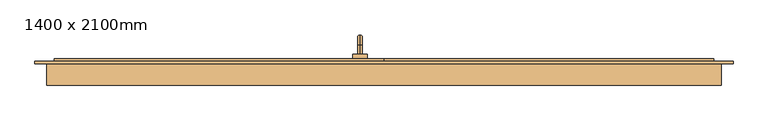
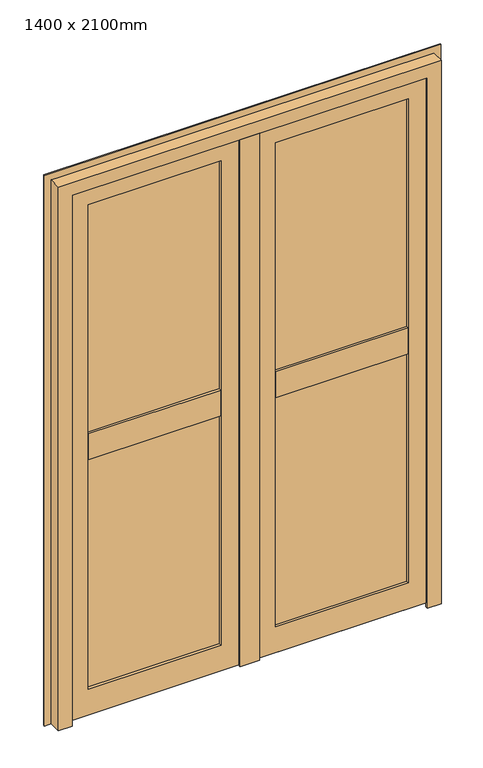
"""IFC4 building model written with IfcOpenShell, lengths in millimetres: door geometry, Puerta practicable de entrada, 2 hojas : 1400 x 2100mm."""

from ifc_helpers import new_model, si_unit, point, frame, origin, place, context, project, spatial, polyline, circle_curve, ellipse_curve, trimmed, outline, extrude, faceted_brep, source, transform, mapped, element, save
from ifc_brep_helpers import plane_surface, cylinder_surface, revolved_surface, advanced_brep


def door_1400_x_2100mm_e34f5f79(model_context):
    return source(origin(), model_context, "Body", "SolidModel", [
        advanced_brep(
        [(-50.0, 225.0, 905.0), (-50.0, 244.0, 905.0), (-50.0, 244.0, 895.0), (-50.0, 225.0, 895.0), (-50.0, 265.0, 884.0), (-50.0, 255.0, 884.0), (-50.0, 265.0, 805.0), (-50.0, 255.0, 805.0), (-65.0, 225.0, 930.0), (-35.0, 225.0, 930.0), (-35.0, 225.0, 870.0), (-65.0, 225.0, 870.0), (-65.0, 215.0, 930.0), (-65.0, 215.0, 870.0), (-35.0, 215.0, 870.0), (-35.0, 215.0, 930.0)],
        [
            (0, 1),
            (1, 2, circle_curve(frame((-50.0, 244.0, 900.0), z_axis=(0.0, -1.0, 0.0), x_axis=(0.0, 0.0, -1.0)), 5.0)),
            (2, 3),
            (3, 0, circle_curve(frame((-50.0, 225.0, 900.0), z_axis=(0.0, 1.0, 0.0), x_axis=(0.0, 0.0, -1.0)), 5.0)),
            (0, 3, circle_curve(frame((-50.0, 225.0, 900.0), z_axis=(0.0, 1.0, 0.0), x_axis=(0.0, 0.0, -1.0)), 5.0)),
            (2, 1, circle_curve(frame((-50.0, 244.0, 900.0), z_axis=(0.0, -1.0, 0.0), x_axis=(0.0, 0.0, -1.0)), 5.0)),
            (1, 4, circle_curve(frame((-50.0, 244.0, 884.0), z_axis=(-1.0, 0.0, 0.0), x_axis=(0.0, 0.0, 1.0)), 21.0)),
            (4, 5, circle_curve(frame((-50.0, 260.0, 884.0), z_axis=(0.0, 0.0, 1.0), x_axis=(0.0, -1.0, 0.0)), 5.0)),
            (5, 2, circle_curve(frame((-50.0, 244.0, 884.0), z_axis=(1.0, 0.0, 0.0), x_axis=(0.0, 0.0, 1.0)), 11.0)),
            (5, 4, circle_curve(frame((-50.0, 260.0, 884.0), z_axis=(0.0, 0.0, 1.0), x_axis=(0.0, -1.0, 0.0)), 5.0)),
            (6, 7, circle_curve(frame((-50.0, 260.0, 805.0), z_axis=(0.0, 0.0, -1.0), x_axis=(0.0, -1.0, 0.0)), 5.0)),
            (7, 6, circle_curve(frame((-50.0, 260.0, 805.0), z_axis=(0.0, 0.0, -1.0), x_axis=(0.0, -1.0, 0.0)), 5.0)),
            (4, 6),
            (7, 5),
            (8, 9),
            (9, 10),
            (10, 11),
            (11, 8),
            (12, 13),
            (13, 14),
            (14, 15),
            (15, 12),
            (8, 12),
            (15, 9),
            (14, 10),
            (13, 11),
        ],
        [
            cylinder_surface(frame((-50.0, 225.0, 900.0), z_axis=(0.0, -1.0, 0.0), x_axis=(0.0, 0.0, -1.0)), 5.0),
            revolved_surface(trimmed(ellipse_curve(frame((-50.0, 244.0, 900.0), z_axis=(0.0, -1.0, 0.0), x_axis=(0.0, 0.0, -1.0)), 5.0, 5.0), [point((-50.0, 244.0, 905.0))], [point((-50.0, 244.0, 895.0))], True, "CARTESIAN"), (-50.0, 244.0, 884.0), (-1.0, 0.0, 0.0)),
            revolved_surface(trimmed(ellipse_curve(frame((-50.0, 244.0, 900.0), z_axis=(0.0, -1.0, 0.0), x_axis=(0.0, 0.0, -1.0)), 5.0, 5.0), [point((-50.0, 244.0, 895.0))], [point((-50.0, 244.0, 905.0))], True, "CARTESIAN"), (-50.0, 244.0, 884.0), (-1.0, 0.0, 0.0)),
            plane_surface(frame((-50.0, 260.0, 805.0), z_axis=(0.0, 0.0, -1.0), x_axis=(-1.0, 0.0, 0.0))),
            cylinder_surface(frame((-50.0, 260.0, 884.0), z_axis=(0.0, 0.0, 1.0), x_axis=(0.0, -1.0, 0.0)), 5.0),
            plane_surface(frame((-35.0, 225.0, 930.0), z_axis=(0.0, 1.0, 0.0), x_axis=(1.0, 0.0, 0.0))),
            plane_surface(frame((-35.0, 215.0, 930.0), z_axis=(0.0, -1.0, 0.0), x_axis=(-1.0, 0.0, 0.0))),
            plane_surface(frame((-65.0, 225.0, 930.0), z_axis=(0.0, 0.0, 1.0), x_axis=(0.0, -1.0, 0.0))),
            plane_surface(frame((-35.0, 225.0, 930.0), z_axis=(1.0, 0.0, 0.0), x_axis=(0.0, -1.0, 0.0))),
            plane_surface(frame((-35.0, 225.0, 870.0), z_axis=(0.0, 0.0, -1.0), x_axis=(0.0, -1.0, 0.0))),
            plane_surface(frame((-65.0, 225.0, 870.0), z_axis=(-1.0, 0.0, 0.0), x_axis=(0.0, -1.0, 0.0))),
        ],
        [
            (0, [[1, 2, 3, 4]]),
            (0, [[-1, 5, -3, 6]]),
            (1, [[-2, 7, 8, 9]]),
            (2, [[-6, -9, 10, -7]]),
            (3, [[11, 12]]),
            (4, [[-8, 13, -12, 14]]),
            (4, [[-10, -14, -11, -13]]),
            (5, [[15, 16, 17, 18], [-4, -5]]),
            (6, [[19, 20, 21, 22]]),
            (7, [[-15, 23, -22, 24]]),
            (8, [[-16, -24, -21, 25]]),
            (9, [[-17, -25, -20, 26]]),
            (10, [[-18, -26, -19, -23]]),
        ],
    ),
        extrude(outline(polyline([(205.0, 22.0), (205.0, 7.0), (200.0, 7.0), (200.0, 12.0), (185.0, 12.0), (185.0, 7.0), (180.0, 7.0), (180.0, 22.0), (205.0, 22.0)])), frame((0.0, 0.0, 0.0), z_axis=(1.0, 0.0, 0.0), x_axis=(0.0, 1.0, 0.0)), (0.0, 0.0, 1.0), 685.0),
        extrude(outline(polyline([(205.0, 22.0), (205.0, 7.0), (200.0, 7.0), (200.0, 12.0), (185.0, 12.0), (185.0, 7.0), (180.0, 7.0), (180.0, 22.0), (205.0, 22.0)])), frame((-685.0, 0.0, 0.0), z_axis=(1.0, 0.0, 0.0), x_axis=(0.0, 1.0, 0.0)), (0.0, 0.0, 1.0), 685.0),
        faceted_brep([(0.0, 170.0, 40.0), (0.0, 180.0, 40.0), (0.0, 180.0, 15.0), (0.0, 170.0, 15.0), (685.0, 170.0, 40.0), (685.0, 170.0, 15.0), (685.0, 180.0, 15.0), (685.0, 180.0, 40.0), (25.0, 170.0, 40.0), (25.0, 180.0, 40.0), (660.0, 180.0, 40.0), (660.0, 170.0, 40.0), (660.0, 170.0, 2060.0), (25.0, 170.0, 2060.0), (100.0, 170.0, 1985.0), (585.0, 170.0, 1985.0), (585.0, 170.0, 115.0), (100.0, 170.0, 115.0), (685.0, 205.0, 2085.0), (685.0, 215.0, 2085.0), (0.0, 215.0, 2085.0), (0.0, 205.0, 2085.0), (610.0, 215.0, 2010.0), (610.0, 180.0, 2010.0), (75.0, 180.0, 2010.0), (75.0, 215.0, 2010.0), (585.0, 180.0, 1985.0), (100.0, 180.0, 1985.0), (660.0, 205.0, 2060.0), (25.0, 205.0, 2060.0), (0.0, 215.0, 15.0), (0.0, 205.0, 15.0), (75.0, 180.0, 90.0), (75.0, 215.0, 90.0), (100.0, 180.0, 115.0), (25.0, 205.0, 40.0), (685.0, 215.0, 15.0), (685.0, 205.0, 15.0), (610.0, 180.0, 90.0), (610.0, 215.0, 90.0), (585.0, 180.0, 115.0), (660.0, 205.0, 40.0)], [[[0, 1, 2, 3]], [[4, 5, 6, 7]], [[1, 0, 8, 9]], [[4, 7, 10, 11]], [[2, 1, 9, 10, 7, 6]], [[3, 2, 6, 5]], [[0, 3, 5, 4, 11, 12, 13, 8], [14, 15, 16, 17]], [[18, 19, 20, 21]], [[22, 23, 24, 25]], [[26, 15, 14, 27]], [[12, 28, 29, 13]], [[21, 20, 30, 31]], [[25, 24, 32, 33]], [[27, 14, 17, 34]], [[13, 29, 35, 9, 8]], [[31, 30, 36, 37]], [[33, 32, 38, 39]], [[34, 17, 16, 40]], [[35, 41, 10, 9]], [[19, 18, 37, 36]], [[20, 19, 36, 30], [22, 25, 33, 39]], [[23, 22, 39, 38]], [[24, 23, 38, 32], [26, 27, 34, 40]], [[15, 26, 40, 16]], [[28, 12, 11, 10, 41]], [[18, 21, 31, 37], [29, 28, 41, 35]]]),
        faceted_brep([(-685.0, 215.0, 2085.0), (-685.0, 205.0, 2085.0), (0.0, 205.0, 2085.0), (0.0, 215.0, 2085.0), (-610.0, 180.0, 2010.0), (-610.0, 215.0, 2010.0), (-75.0, 215.0, 2010.0), (-75.0, 180.0, 2010.0), (-585.0, 170.0, 1985.0), (-585.0, 180.0, 1985.0), (-100.0, 180.0, 1985.0), (-100.0, 170.0, 1985.0), (-660.0, 205.0, 2060.0), (-660.0, 170.0, 2060.0), (-25.0, 170.0, 2060.0), (-25.0, 205.0, 2060.0), (0.0, 205.0, 15.0), (0.0, 215.0, 15.0), (-75.0, 215.0, 90.0), (-75.0, 180.0, 90.0), (-100.0, 180.0, 115.0), (-100.0, 170.0, 115.0), (-25.0, 170.0, 40.0), (-25.0, 180.0, 40.0), (-25.0, 205.0, 40.0), (-685.0, 205.0, 15.0), (-685.0, 215.0, 15.0), (-610.0, 215.0, 90.0), (-610.0, 180.0, 90.0), (-585.0, 180.0, 115.0), (-585.0, 170.0, 115.0), (-660.0, 205.0, 40.0), (-660.0, 180.0, 40.0), (-660.0, 170.0, 40.0), (-685.0, 170.0, 40.0), (-685.0, 170.0, 15.0), (0.0, 170.0, 15.0), (0.0, 170.0, 40.0), (0.0, 180.0, 15.0), (0.0, 180.0, 40.0), (-685.0, 180.0, 40.0), (-685.0, 180.0, 15.0)], [[[0, 1, 2, 3]], [[4, 5, 6, 7]], [[8, 9, 10, 11]], [[12, 13, 14, 15]], [[3, 2, 16, 17]], [[7, 6, 18, 19]], [[11, 10, 20, 21]], [[15, 14, 22, 23, 24]], [[17, 16, 25, 26]], [[19, 18, 27, 28]], [[21, 20, 29, 30]], [[31, 24, 23, 32]], [[1, 0, 26, 25]], [[0, 3, 17, 26], [6, 5, 27, 18]], [[5, 4, 28, 27]], [[4, 7, 19, 28], [10, 9, 29, 20]], [[9, 8, 30, 29]], [[14, 13, 33, 34, 35, 36, 37, 22], [8, 11, 21, 30]], [[13, 12, 31, 32, 33]], [[2, 1, 25, 16], [12, 15, 24, 31]], [[37, 36, 38, 39]], [[34, 40, 41, 35]], [[37, 39, 23, 22]], [[40, 34, 33, 32]], [[39, 38, 41, 40, 32, 23]], [[38, 36, 35, 41]]]),
        extrude(outline(polyline([(85.0, 180.0), (85.0, 194.0), (600.0, 194.0), (600.0, 180.0), (85.0, 180.0)])), frame((0.0, 0.0, 1085.0), z_axis=(0.0, 0.0, 1.0), x_axis=(1.0, 0.0, 0.0)), (0.0, 0.0, 1.0), 915.0),
        extrude(outline(polyline([(85.0, 180.0), (85.0, 194.0), (600.0, 194.0), (600.0, 180.0), (85.0, 180.0)])), frame((0.0, 0.0, 100.0), z_axis=(0.0, 0.0, 1.0), x_axis=(1.0, 0.0, 0.0)), (0.0, 0.0, 1.0), 915.0),
        extrude(outline(polyline([(-600.0, 180.0), (-600.0, 194.0), (-85.0, 194.0), (-85.0, 180.0), (-600.0, 180.0)])), frame((0.0, 0.0, 1085.0), z_axis=(0.0, 0.0, 1.0), x_axis=(1.0, 0.0, 0.0)), (0.0, 0.0, 1.0), 915.0),
        extrude(outline(polyline([(-600.0, 180.0), (-600.0, 194.0), (-85.0, 194.0), (-85.0, 180.0), (-600.0, 180.0)])), frame((0.0, 0.0, 100.0), z_axis=(0.0, 0.0, 1.0), x_axis=(1.0, 0.0, 0.0)), (0.0, 0.0, 1.0), 915.0),
        extrude(outline(polyline([(180.0, 1025.0), (180.0, 1000.0), (170.0, 1000.0), (170.0, 1100.0), (180.0, 1100.0), (180.0, 1075.0), (215.0, 1075.0), (215.0, 1025.0), (180.0, 1025.0)])), frame((100.0, 0.0, 0.0), z_axis=(1.0, 0.0, 0.0), x_axis=(0.0, 1.0, 0.0)), (0.0, 0.0, 1.0), 485.0),
        extrude(outline(polyline([(180.0, 1075.0), (215.0, 1075.0), (215.0, 1025.0), (180.0, 1025.0), (180.0, 1000.0), (170.0, 1000.0), (170.0, 1100.0), (180.0, 1100.0), (180.0, 1075.0)])), frame((-585.0, 0.0, 0.0), z_axis=(1.0, 0.0, 0.0), x_axis=(0.0, 1.0, 0.0)), (0.0, 0.0, 1.0), 485.0),
        extrude(outline(polyline([(-585.0, 194.0), (-585.0, 215.0), (-100.0, 215.0), (-100.0, 194.0), (-585.0, 194.0)])), frame((0.0, 0.0, 1075.0), z_axis=(0.0, 0.0, 1.0), x_axis=(1.0, 0.0, 0.0)), (0.0, 0.0, 1.0), 25.0),
        extrude(outline(polyline([(-585.0, 194.0), (-585.0, 215.0), (-100.0, 215.0), (-100.0, 194.0), (-585.0, 194.0)])), frame((0.0, 0.0, 1000.0), z_axis=(0.0, 0.0, 1.0), x_axis=(1.0, 0.0, 0.0)), (0.0, 0.0, 1.0), 25.0),
        extrude(outline(polyline([(100.0, 194.0), (100.0, 215.0), (585.0, 215.0), (585.0, 194.0), (100.0, 194.0)])), frame((0.0, 0.0, 1075.0), z_axis=(0.0, 0.0, 1.0), x_axis=(1.0, 0.0, 0.0)), (0.0, 0.0, 1.0), 25.0),
        extrude(outline(polyline([(100.0, 194.0), (100.0, 215.0), (585.0, 215.0), (585.0, 194.0), (100.0, 194.0)])), frame((0.0, 0.0, 1000.0), z_axis=(0.0, 0.0, 1.0), x_axis=(1.0, 0.0, 0.0)), (0.0, 0.0, 1.0), 25.0),
        extrude(outline(polyline([(2010.0, 75.0), (90.0, 75.0), (90.0, 610.0), (2010.0, 610.0), (2010.0, 75.0)]), holes=[polyline([(1985.0, 585.0), (115.0, 585.0), (115.0, 100.0), (1985.0, 100.0), (1985.0, 585.0)])]), frame((0.0, 194.0, 0.0), z_axis=(0.0, 1.0, 0.0), x_axis=(0.0, 0.0, 1.0)), (0.0, 0.0, 1.0), 21.0),
        faceted_brep([(25.0, 205.0, 2085.0), (-10.0, 205.0, 2085.0), (-10.0, 170.0, 2085.0), (25.0, 170.0, 2085.0), (25.0, 205.0, 15.0), (-10.0, 205.0, 15.0), (-10.0, 170.0, 15.0), (-10.0, 170.0, 2050.0), (25.0, 170.0, 2050.0), (25.0, 170.0, 15.0), (35.0, 160.0, 2050.0), (35.0, 170.0, 2050.0), (-35.0, 170.0, 2050.0), (-35.0, 160.0, 2050.0), (35.0, 160.0, 15.0), (-35.0, 160.0, 15.0), (-35.0, 170.0, 15.0), (35.0, 170.0, 15.0)], [[[0, 1, 2, 3]], [[1, 0, 4, 5]], [[2, 1, 5, 6, 7]], [[3, 2, 7, 8]], [[4, 0, 3, 8, 9]], [[10, 11, 8, 7, 12, 13]], [[14, 15, 16, 6, 5, 4, 9, 17]], [[11, 10, 14, 17]], [[8, 11, 17, 9]], [[12, 7, 6, 16]], [[13, 12, 16, 15]], [[10, 13, 15, 14]]]),
        extrude(outline(polyline([(2010.0, -610.0), (90.0, -610.0), (90.0, -75.0), (2010.0, -75.0), (2010.0, -610.0)]), holes=[polyline([(1985.0, -100.0), (115.0, -100.0), (115.0, -585.0), (1985.0, -585.0), (1985.0, -100.0)])]), frame((0.0, 194.0, 0.0), z_axis=(0.0, 1.0, 0.0), x_axis=(0.0, 0.0, 1.0)), (0.0, 0.0, 1.0), 21.0),
        faceted_brep([(-700.0, 160.0, 0.0), (-700.0, 205.0, 0.0), (-675.0, 205.0, 0.0), (-675.0, 170.0, 0.0), (-650.0, 170.0, 0.0), (-650.0, 160.0, 0.0), (-700.0, 205.0, 2100.0), (-700.0, 160.0, 2100.0), (700.0, 160.0, 2100.0), (700.0, 205.0, 2100.0), (-675.0, 170.0, 2075.0), (-675.0, 205.0, 2075.0), (675.0, 205.0, 2075.0), (675.0, 170.0, 2075.0), (-650.0, 160.0, 2050.0), (-650.0, 170.0, 2050.0), (650.0, 170.0, 2050.0), (650.0, 160.0, 2050.0), (700.0, 160.0, 0.0), (700.0, 205.0, 0.0), (675.0, 205.0, 0.0), (675.0, 170.0, 0.0), (650.0, 170.0, 0.0), (650.0, 160.0, 0.0)], [[[0, 1, 2, 3, 4, 5]], [[6, 7, 8, 9]], [[10, 11, 12, 13]], [[14, 15, 16, 17]], [[9, 8, 18, 19]], [[13, 12, 20, 21]], [[17, 16, 22, 23]], [[18, 23, 22, 21, 20, 19]], [[1, 0, 7, 6]], [[2, 1, 6, 9, 19, 20, 12, 11]], [[3, 2, 11, 10]], [[4, 3, 10, 13, 21, 22, 16, 15]], [[5, 4, 15, 14]], [[0, 5, 14, 17, 23, 18, 8, 7]]]),
        extrude(outline(polyline([(0.0, -725.0), (0.0, -690.0), (2090.0, -690.0), (2090.0, 690.0), (0.0, 690.0), (0.0, 725.0), (2125.0, 725.0), (2125.0, -725.0), (0.0, -725.0)])), frame((0.0, 205.0, 0.0), z_axis=(0.0, 1.0, 0.0), x_axis=(0.0, 0.0, 1.0)), (0.0, 0.0, 1.0), 5.0),
    ])


if __name__ == "__main__":
    model = new_model("IFC4")
    model_context = context("Model", 3, world=origin())
    ifc_project = project(units=[si_unit("LENGTHUNIT", "METRE", prefix="MILLI")], contexts=[model_context])
    site = spatial("IfcSite", under=ifc_project)
    building = spatial("IfcBuilding", under=site)
    placement = place(None, origin())
    door_1400_x_2100mm_shape = door_1400_x_2100mm_e34f5f79(model_context)
    element("IfcDoor", 1, ObjectType="Puerta practicable de entrada, 2 hojas : 1400 x 2100mm", at=placement, inside=building, context=model_context, shape_type="MappedRepresentation", body=[
        mapped(door_1400_x_2100mm_shape, transform((0.0, 0.0, 0.0), x_axis=(1.0, 0.0, 0.0), y_axis=(0.0, 1.0, 0.0), z_axis=(0.0, 0.0, 1.0))),
    ])
    save(model, "model.ifc")
